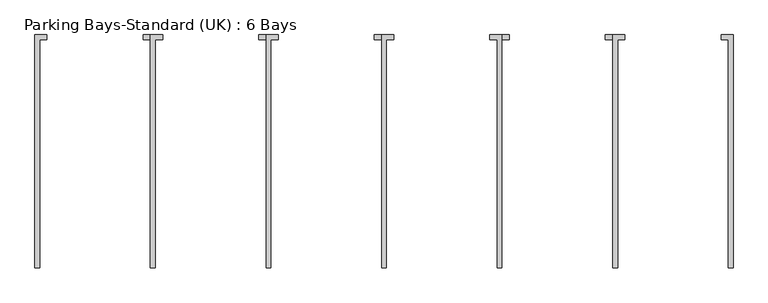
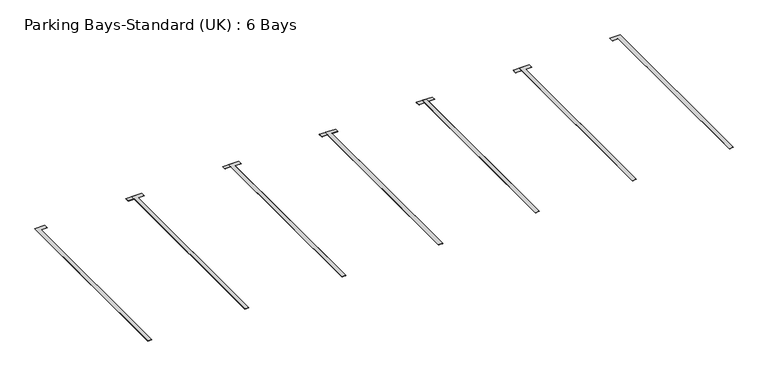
"""IFC4 building model written with IfcOpenShell, lengths in millimetres: proxy geometry, Parking Bays-Standard (UK) : 6 Bays."""

from ifc_helpers import new_model, si_unit, origin, origin_with_axes, place, context, project, spatial, polyline, outline, extrude, source, transform, mapped, element, save


def parking_bays_standard_uk_6_bays_bfc328e1(model_context):
    return source(origin(), model_context, "Body", "SweptSolid", [
        extrude(outline(polyline([(14350.0, 0.0), (14350.0, 4750.0), (14200.0, 4750.0), (14200.0, 4850.0), (14450.0, 4850.0), (14450.0, 0.0), (14350.0, 0.0)])), origin_with_axes(), (0.0, 0.0, 1.0), 3.175),
        extrude(outline(polyline([(11950.0, 0.0), (11950.0, 4850.0), (12200.0, 4850.0), (12200.0, 4750.0), (12050.0, 4750.0), (12050.0, 0.0), (11950.0, 0.0)])), origin_with_axes(), (0.0, 0.0, 1.0), 3.175),
        extrude(outline(polyline([(9550.0, 0.0), (9550.0, 4750.0), (9400.0, 4750.0), (9400.0, 4850.0), (9650.0, 4850.0), (9650.0, 0.0), (9550.0, 0.0)])), origin_with_axes(), (0.0, 0.0, 1.0), 3.175),
        extrude(outline(polyline([(7150.0, 0.0), (7150.0, 4850.0), (7400.0, 4850.0), (7400.0, 4750.0), (7250.0, 4750.0), (7250.0, 0.0), (7150.0, 0.0)])), origin_with_axes(), (0.0, 0.0, 1.0), 3.175),
        extrude(outline(polyline([(7150.0, 0.0), (7150.0, 4750.0), (7000.0, 4750.0), (7000.0, 4850.0), (7250.0, 4850.0), (7250.0, 0.0), (7150.0, 0.0)])), origin_with_axes(), (0.0, 0.0, 1.0), 3.175),
        extrude(outline(polyline([(4750.0, 0.0), (4750.0, 4850.0), (5000.0, 4850.0), (5000.0, 4750.0), (4850.0, 4750.0), (4850.0, 0.0), (4750.0, 0.0)])), origin_with_axes(), (0.0, 0.0, 1.0), 3.175),
        extrude(outline(polyline([(4750.0, 0.0), (4750.0, 4750.0), (4600.0, 4750.0), (4600.0, 4850.0), (4850.0, 4850.0), (4850.0, 0.0), (4750.0, 0.0)])), origin_with_axes(), (0.0, 0.0, 1.0), 3.175),
        extrude(outline(polyline([(2350.0, 0.0), (2350.0, 4850.0), (2600.0, 4850.0), (2600.0, 4750.0), (2450.0, 4750.0), (2450.0, 0.0), (2350.0, 0.0)])), origin_with_axes(), (0.0, 0.0, 1.0), 3.175),
        extrude(outline(polyline([(11950.0, 0.0), (11950.0, 4750.0), (11800.0, 4750.0), (11800.0, 4850.0), (12050.0, 4850.0), (12050.0, 0.0), (11950.0, 0.0)])), origin_with_axes(), (0.0, 0.0, 1.0), 3.175),
        extrude(outline(polyline([(9550.0, 0.0), (9550.0, 4850.0), (9800.0, 4850.0), (9800.0, 4750.0), (9650.0, 4750.0), (9650.0, 0.0), (9550.0, 0.0)])), origin_with_axes(), (0.0, 0.0, 1.0), 3.175),
        extrude(outline(polyline([(2350.0, 0.0), (2350.0, 4750.0), (2200.0, 4750.0), (2200.0, 4850.0), (2450.0, 4850.0), (2450.0, 0.0), (2350.0, 0.0)])), origin_with_axes(), (0.0, 0.0, 1.0), 3.175),
        extrude(outline(polyline([(-50.0, 0.0), (-50.0, 4850.0), (200.0, 4850.0), (200.0, 4750.0), (50.0, 4750.0), (50.0, 0.0), (-50.0, 0.0)])), origin_with_axes(), (0.0, 0.0, 1.0), 3.175),
    ])


if __name__ == "__main__":
    model = new_model("IFC4")
    model_context = context("Model", 3, world=origin())
    ifc_project = project(units=[si_unit("LENGTHUNIT", "METRE", prefix="MILLI")], contexts=[model_context])
    site = spatial("IfcSite", under=ifc_project)
    building = spatial("IfcBuilding", under=site)
    placement = place(None, origin())
    parking_bays_standard_uk_6_bays_shape = parking_bays_standard_uk_6_bays_bfc328e1(model_context)
    element("IfcBuildingElementProxy", 1, Name="Parking Bays-Standard (UK) : 6 Bays", ObjectType="Parking Bays-Standard (UK) : 6 Bays", at=placement, inside=building, context=model_context, shape_type="MappedRepresentation", body=[
        mapped(parking_bays_standard_uk_6_bays_shape, transform((0.0, 0.0, 0.0), x_axis=(1.0, 0.0, 0.0), y_axis=(0.0, 1.0, 0.0), z_axis=(0.0, 0.0, 1.0))),
    ])
    save(model, "model.ifc")
